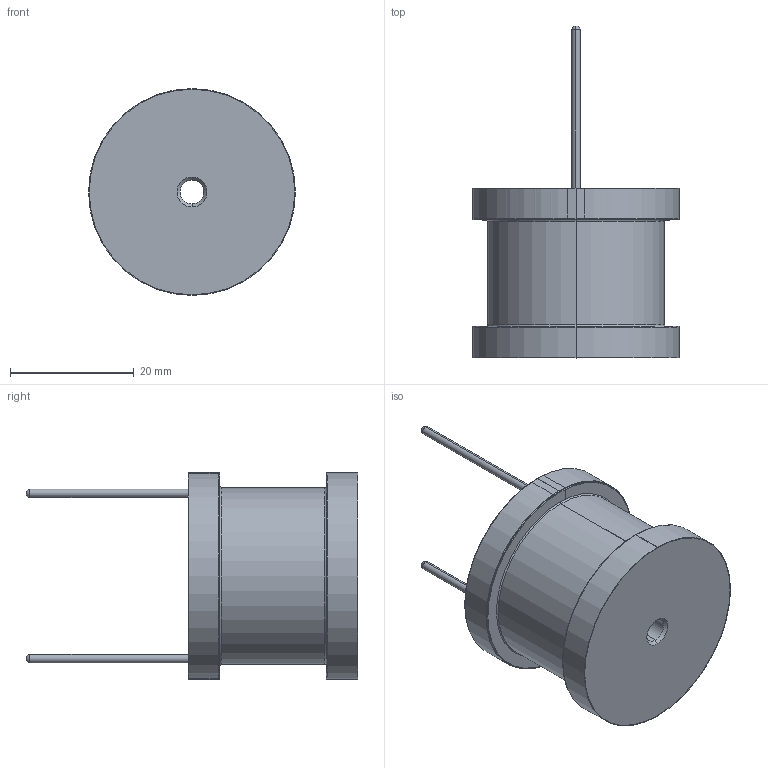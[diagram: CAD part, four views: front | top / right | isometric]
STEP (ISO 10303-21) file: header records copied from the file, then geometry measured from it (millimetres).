
FILE_DESCRIPTION (( 'STEP AP203' ), '1' );
FILE_NAME ('J-5617.STEP', '2020-09-24T14:28:51', ( 'Windows User' ), ( '' ), 'SwSTEP 2.0', 'SolidWorks 2015', '' );
FILE_SCHEMA (( 'CONFIG_CONTROL_DESIGN' ));
Length unit declared in the file: inch
Products named in the file (4): J-5617 - CORE; J-5617; J-5617 - TUBING; J-5617 - COIL
Assembly tree (3 placements, depth 2):
  J-5617
    J-5617 - CORE
    J-5617 - COIL
    J-5617 - TUBING
Bounding box: 33.37 x 53.51 x 33.37 mm (x, y, z)
Volume: 12907.9 mm3; surface area: 23385.5 mm2
Topology: 14 solids, 14 shells, 139 faces, 291 edges, 186 vertices
Faces by surface type: cylinder 51, plane 38, bspline 26, torus 20, cone 4
Entity records: 24326 total; most frequent: CARTESIAN_POINT 21021, DIRECTION 631, ORIENTED_EDGE 582, EDGE_CURVE 291, AXIS2_PLACEMENT_3D 282, VERTEX_POINT 186, EDGE_LOOP 163, CIRCLE 163
